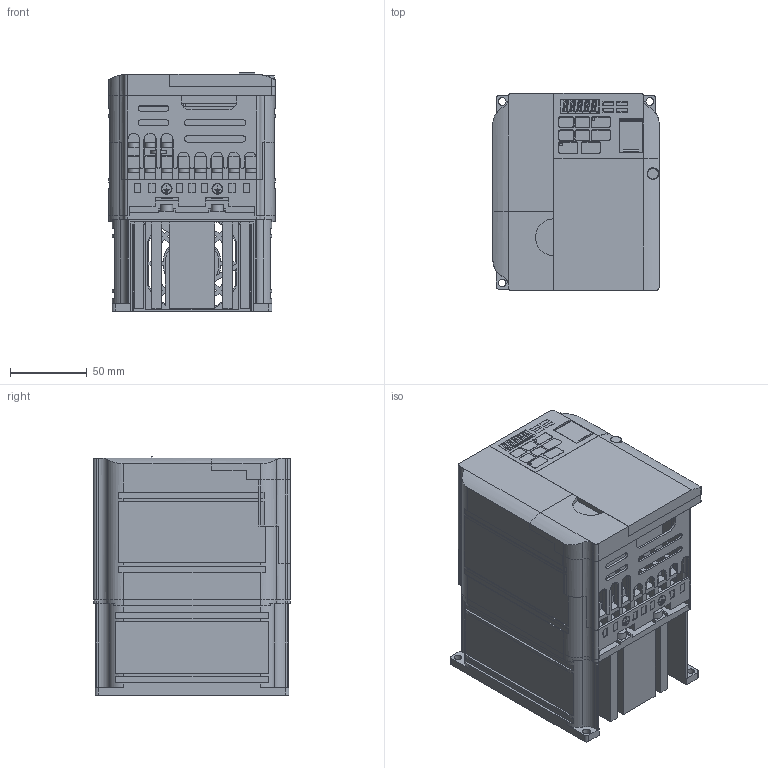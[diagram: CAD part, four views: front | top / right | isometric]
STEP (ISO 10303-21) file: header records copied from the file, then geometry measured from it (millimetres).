
FILE_DESCRIPTION((''),'2;1');
FILE_NAME('V1000_IP20_FRAME_I1_ASM','2010-07-20T',('jc'),('YASKAWA ELECTRIC CORCORATION'),'PRO/ENGINEER BY PARAMETRIC TECHNOLOGY CORPORATION, 2008490','PRO/ENGINEER BY PARAMETRIC TECHNOLOGY CORPORATION, 2008490','');
FILE_SCHEMA(('CONFIG_CONTROL_DESIGN'));
Length unit declared in the file: millimetre
Products named in the file (25): NONE-38384; ASM0079_ASM; NONE-35129; SHITA_COVER_B4________ANY_ASM; NONE-37918; ASM0080_ASM; NONE-30268; ASM0081_ASM; NONE-34505; ASM0082_ASM; NONE-59342; ASM0083_ASM; NONE-42660; ASM0084_ASM; NONE-43255; ASM0085_ASM; NONE-14356; BASE_CASE_B4________ANY_ASM; NONE-19501; ASM0086_ASM; NONE-44499; ASM0087_ASM; CIMR_VZ4A0009BAA_ANY_ASM; _4A0005B_4A0007B_4A0009B; V1000_IP20_FRAME_I1_ASM
Assembly tree (24 placements, depth 4):
  V1000_IP20_FRAME_I1_ASM
    CIMR_VZ4A0009BAA_ANY_ASM
      ASM0079_ASM
        NONE-38384
      SHITA_COVER_B4________ANY_ASM
        NONE-35129
      ASM0080_ASM
        NONE-37918
      ASM0081_ASM
        NONE-30268
      ASM0082_ASM
        NONE-34505
      ASM0083_ASM
        NONE-59342
      ASM0084_ASM
        NONE-42660
      ASM0085_ASM
        NONE-43255
      BASE_CASE_B4________ANY_ASM
        NONE-14356
      ASM0086_ASM
        NONE-19501
      ASM0087_ASM
        NONE-44499
    _4A0005B_4A0007B_4A0009B
Bounding box: 108 x 128 x 155 mm (x, y, z)
Volume: 1404700.6 mm3; surface area: 308004.4 mm2
Topology: 11 solids, 11 shells, 2052 faces, 5618 edges, 3720 vertices
Faces by surface type: plane 1621, cylinder 431
Entity records: 65355 total; most frequent: CARTESIAN_POINT 11548, ORIENTED_EDGE 11236, DIRECTION 10827, EDGE_CURVE 5618, VECTOR 4635, LINE 4635, VERTEX_POINT 3720, AXIS2_PLACEMENT_3D 3096
